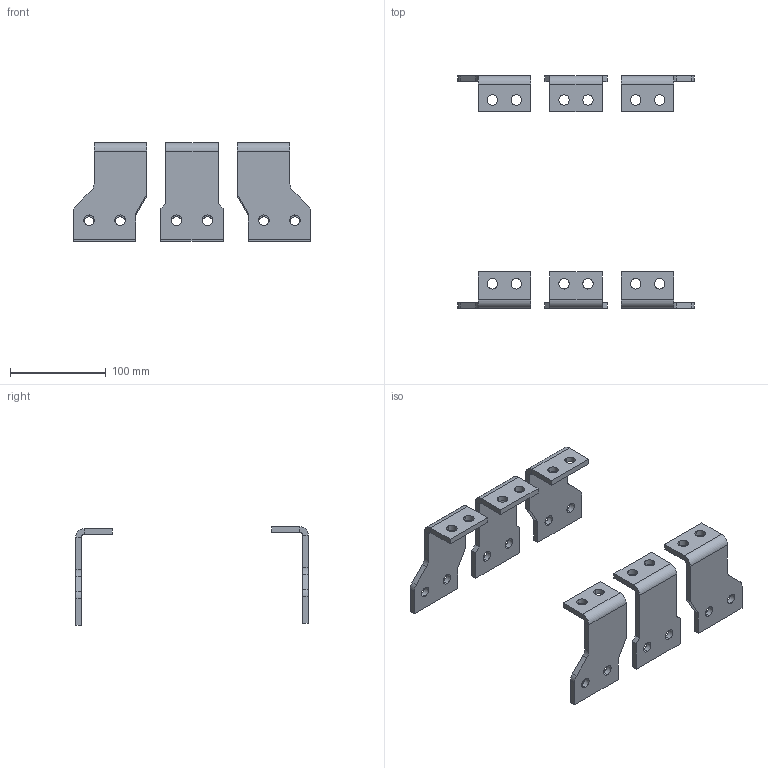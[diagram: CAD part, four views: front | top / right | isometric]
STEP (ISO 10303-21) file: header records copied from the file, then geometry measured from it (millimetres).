
FILE_DESCRIPTION (( 'STEP AP214' ), '1' );
FILE_NAME ('ÂÀ57-39 âûâîäû äëÿ çàäíåãî ïðèñîåäèíåíèÿ (2).STEP', '2023-08-07T11:07:43', ( '' ), ( '' ), 'SwSTEP 2.0', 'SolidWorks 2018', '' );
FILE_SCHEMA (( 'AUTOMOTIVE_DESIGN' ));
Length unit declared in the file: millimetre
Products named in the file (1): ÂÀ57-39 âûâîäû äëÿ çàäíåãî ïðèñîåäèíåíèÿ (2)
Bounding box: 248 x 243.4 x 103 mm (x, y, z)
Volume: 260982.9 mm3; surface area: 105997.9 mm2
Topology: 6 solids, 6 shells, 164 faces, 408 edges, 256 vertices
Faces by surface type: plane 96, cylinder 68
Entity records: 6823 total; most frequent: DIRECTION 874, CARTESIAN_POINT 829, ORIENTED_EDGE 816, EDGE_CURVE 408, AXIS2_PLACEMENT_3D 301, LINE 272, VECTOR 272, VERTEX_POINT 256
